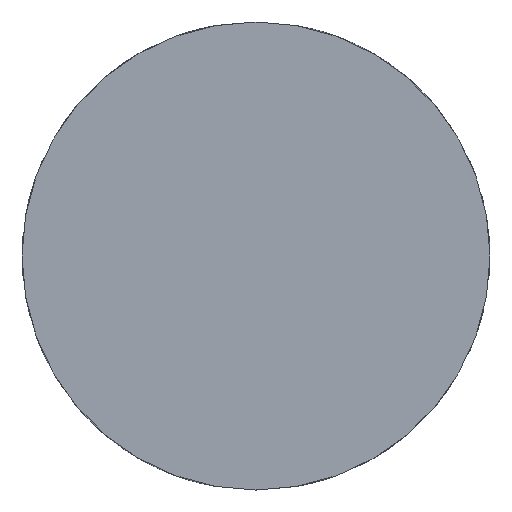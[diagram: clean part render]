
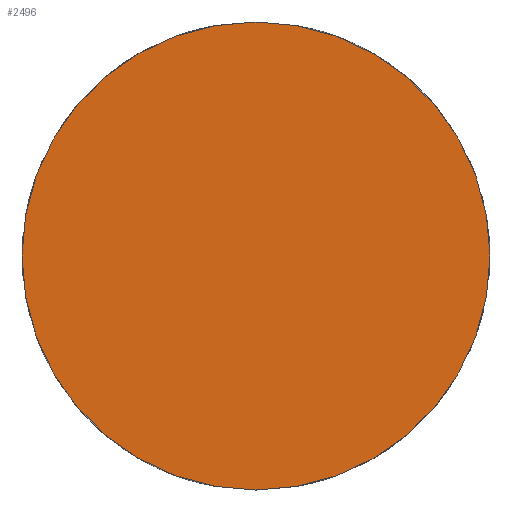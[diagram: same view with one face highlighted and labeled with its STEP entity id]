
A CAD part, front view. The second image highlights one B-rep face of the part: STEP entity #2496.
In plain terms, the highlighted planar face has unit normal (0, -1, 0).
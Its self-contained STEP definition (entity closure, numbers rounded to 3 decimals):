
#4 = EDGE_CURVE ( 'NONE', #414, #2455, #925, .T. ) ;
#29 = AXIS2_PLACEMENT_3D ( 'NONE', #128, #301, #2286 ) ;
#66 = CIRCLE ( 'NONE', #29, 3.5 ) ;
#128 = CARTESIAN_POINT ( 'NONE',  ( 0., 0., 0. ) ) ;
#170 = AXIS2_PLACEMENT_3D ( 'NONE', #1431, #256, #1648 ) ;
#184 = AXIS2_PLACEMENT_3D ( 'NONE', #1779, #1556, #983 ) ;
#256 = DIRECTION ( 'NONE',  ( 0., 1., 0. ) ) ;
#301 = DIRECTION ( 'NONE',  ( 0., 1., 0. ) ) ;
#398 = CARTESIAN_POINT ( 'NONE',  ( 0., 0., 3.5 ) ) ;
#414 = VERTEX_POINT ( 'NONE', #480 ) ;
#480 = CARTESIAN_POINT ( 'NONE',  ( 0., 0., -3.5 ) ) ;
#925 = CIRCLE ( 'NONE', #170, 3.5 ) ;
#983 = DIRECTION ( 'NONE',  ( 0., 0., 1. ) ) ;
#1161 = PLANE ( 'NONE',  #184 ) ;
#1431 = CARTESIAN_POINT ( 'NONE',  ( 0., 0., 0. ) ) ;
#1460 = ORIENTED_EDGE ( 'NONE', *, *, #1717, .F. ) ;
#1556 = DIRECTION ( 'NONE',  ( 0., 1., 0. ) ) ;
#1630 = FACE_OUTER_BOUND ( 'NONE', #2462, .T. ) ;
#1648 = DIRECTION ( 'NONE',  ( 0., 0., 1. ) ) ;
#1717 = EDGE_CURVE ( 'NONE', #2455, #414, #66, .T. ) ;
#1779 = CARTESIAN_POINT ( 'NONE',  ( 0., 0., 0. ) ) ;
#1914 = ORIENTED_EDGE ( 'NONE', *, *, #4, .F. ) ;
#2286 = DIRECTION ( 'NONE',  ( 0., 0., 1. ) ) ;
#2455 = VERTEX_POINT ( 'NONE', #398 ) ;
#2462 = EDGE_LOOP ( 'NONE', ( #1914, #1460 ) ) ;
#2496 = ADVANCED_FACE ( 'NONE', ( #1630 ), #1161, .F. ) ;
